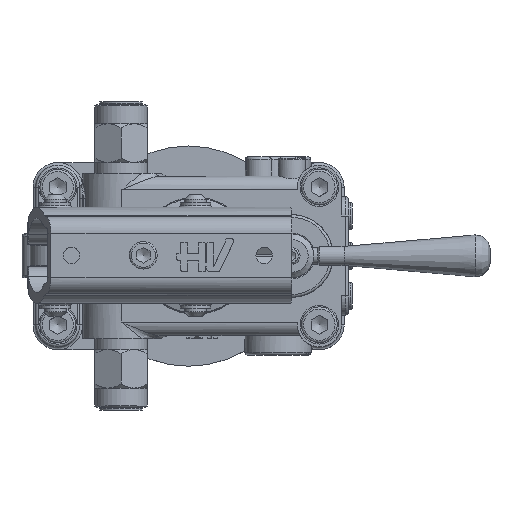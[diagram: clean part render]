
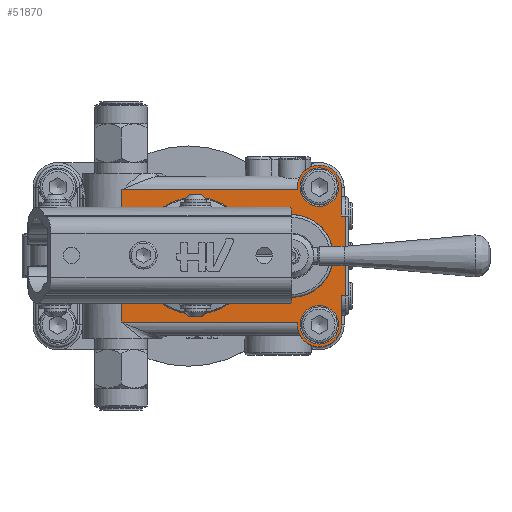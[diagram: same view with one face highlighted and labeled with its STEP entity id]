
A CAD part, top view. The second image highlights one B-rep face of the part: STEP entity #51870.
In plain terms, the highlighted planar face has unit normal (0, 0, 1).
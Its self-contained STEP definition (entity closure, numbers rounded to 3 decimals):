
#22228=CARTESIAN_POINT('',(57.255,52.922,43.));
#22229=VERTEX_POINT('',#22228);
#22230=CARTESIAN_POINT('',(59.,34.,43.));
#22231=DIRECTION('',(0.,0.,1.0));
#22232=DIRECTION('',(0.092,-0.996,0.));
#22233=AXIS2_PLACEMENT_3D('',#22230,#22231,#22232);
#22234=CIRCLE('',#22233,19.002);
#22235=EDGE_CURVE('',#22229,#22229,#22234,.T.);
#43499=CARTESIAN_POINT('',(96.,58.,43.));
#43500=VERTEX_POINT('',#43499);
#43508=CARTESIAN_POINT('',(96.,59.,43.));
#43509=VERTEX_POINT('',#43508);
#43510=CARTESIAN_POINT('',(96.,58.,43.));
#43511=DIRECTION('',(0.0,1.0,0.0));
#43512=VECTOR('',#43511,1.);
#43513=LINE('',#43510,#43512);
#43514=EDGE_CURVE('',#43500,#43509,#43513,.T.);
#43530=CARTESIAN_POINT('',(96.0,10.0,43.));
#43531=VERTEX_POINT('',#43530);
#43541=CARTESIAN_POINT('',(96.0,9.,43.));
#43542=VERTEX_POINT('',#43541);
#43549=CARTESIAN_POINT('',(96.,9.,43.));
#43550=DIRECTION('',(0.0,1.0,0.0));
#43551=VECTOR('',#43550,1.);
#43552=LINE('',#43549,#43551);
#43553=EDGE_CURVE('',#43542,#43531,#43552,.T.);
#43712=CARTESIAN_POINT('',(32.,44.122,43.));
#43713=VERTEX_POINT('',#43712);
#43762=CARTESIAN_POINT('',(33.732,41.0,43.));
#43763=VERTEX_POINT('',#43762);
#43771=CARTESIAN_POINT('',(33.732,41.0,43.));
#43772=CARTESIAN_POINT('',(33.732,41.528,43.));
#43773=CARTESIAN_POINT('',(33.438,42.767,43.));
#43774=CARTESIAN_POINT('',(32.582,43.719,43.));
#43775=CARTESIAN_POINT('',(32.,44.122,43.));
#43776=B_SPLINE_CURVE_WITH_KNOTS('',3,(#43771,#43772,#43773,#43774,#43775),.UNSPECIFIED.,.F.,.U.,(4,1,4),(2.696,2.855,3.066),.UNSPECIFIED.);
#43777=EDGE_CURVE('',#43763,#43713,#43776,.T.);
#43789=CARTESIAN_POINT('',(33.732,27.,43.));
#43790=VERTEX_POINT('',#43789);
#43798=CARTESIAN_POINT('',(33.732,27.,43.));
#43799=DIRECTION('',(0.0,1.0,0.0));
#43800=VECTOR('',#43799,14.);
#43801=LINE('',#43798,#43800);
#43802=EDGE_CURVE('',#43790,#43763,#43801,.T.);
#43835=CARTESIAN_POINT('',(32.,23.878,43.));
#43836=VERTEX_POINT('',#43835);
#43844=CARTESIAN_POINT('',(32.,23.878,43.));
#43845=CARTESIAN_POINT('',(32.433,24.178,43.));
#43846=CARTESIAN_POINT('',(33.336,25.067,43.));
#43847=CARTESIAN_POINT('',(33.732,26.29,43.0));
#43848=CARTESIAN_POINT('',(33.732,27.,43.));
#43849=B_SPLINE_CURVE_WITH_KNOTS('',3,(#43844,#43845,#43846,#43847,#43848),.UNSPECIFIED.,.F.,.U.,(4,1,4),(2.696,2.854,3.065),.UNSPECIFIED.);
#43850=EDGE_CURVE('',#43836,#43790,#43849,.T.);
#44520=CARTESIAN_POINT('',(112.0,59.,43.));
#44521=VERTEX_POINT('',#44520);
#44528=CARTESIAN_POINT('',(112.,48.5,43.));
#44529=VERTEX_POINT('',#44528);
#44530=CARTESIAN_POINT('',(112.0,59.,43.));
#44531=DIRECTION('',(0.0,-1.0,0.0));
#44532=VECTOR('',#44531,10.5);
#44533=LINE('',#44530,#44532);
#44534=EDGE_CURVE('',#44521,#44529,#44533,.T.);
#44649=CARTESIAN_POINT('',(112.0,19.5,43.));
#44650=VERTEX_POINT('',#44649);
#44658=CARTESIAN_POINT('',(112.,9.,43.));
#44659=VERTEX_POINT('',#44658);
#44660=CARTESIAN_POINT('',(112.,19.5,43.));
#44661=DIRECTION('',(0.0,-1.0,0.0));
#44662=VECTOR('',#44661,10.5);
#44663=LINE('',#44660,#44662);
#44664=EDGE_CURVE('',#44650,#44659,#44663,.T.);
#44996=CARTESIAN_POINT('',(113.5,48.5,43.));
#44997=VERTEX_POINT('',#44996);
#45007=CARTESIAN_POINT('',(112.,48.5,43.));
#45008=DIRECTION('',(1.0,0.0,0.0));
#45009=VECTOR('',#45008,1.5);
#45010=LINE('',#45007,#45009);
#45011=EDGE_CURVE('',#44529,#44997,#45010,.T.);
#45021=CARTESIAN_POINT('',(113.5,19.5,43.));
#45022=VERTEX_POINT('',#45021);
#45032=CARTESIAN_POINT('',(112.0,19.5,43.));
#45033=DIRECTION('',(1.0,0.0,0.0));
#45034=VECTOR('',#45033,1.5);
#45035=LINE('',#45032,#45034);
#45036=EDGE_CURVE('',#44650,#45022,#45035,.T.);
#45316=CARTESIAN_POINT('',(113.5,48.5,43.));
#45317=DIRECTION('',(0.0,-1.0,0.0));
#45318=VECTOR('',#45317,29.);
#45319=LINE('',#45316,#45318);
#45320=EDGE_CURVE('',#44997,#45022,#45319,.T.);
#46764=CARTESIAN_POINT('',(32.,10.0,43.));
#46765=VERTEX_POINT('',#46764);
#46796=CARTESIAN_POINT('',(96.0,10.0,43.));
#46797=DIRECTION('',(-1.0,0.0,0.0));
#46798=VECTOR('',#46797,64.);
#46799=LINE('',#46796,#46798);
#46800=EDGE_CURVE('',#43531,#46765,#46799,.T.);
#47483=CARTESIAN_POINT('',(32.,58.,43.));
#47484=VERTEX_POINT('',#47483);
#48342=CARTESIAN_POINT('',(96.,58.,43.));
#48343=DIRECTION('',(-1.0,0.0,0.0));
#48344=VECTOR('',#48343,64.);
#48345=LINE('',#48342,#48344);
#48346=EDGE_CURVE('',#43500,#47484,#48345,.T.);
#48372=CARTESIAN_POINT('',(104.,59.,43.));
#48373=DIRECTION('',(0.0,0.0,-1.0));
#48374=DIRECTION('',(1.0,0.0,0.0));
#48375=AXIS2_PLACEMENT_3D('',#48372,#48373,#48374);
#48376=CIRCLE('',#48375,8.0);
#48377=EDGE_CURVE('',#43509,#44521,#48376,.T.);
#48761=CARTESIAN_POINT('',(83.0,44.198,43.));
#48762=VERTEX_POINT('',#48761);
#48770=CARTESIAN_POINT('',(83.0,23.802,43.));
#48771=VERTEX_POINT('',#48770);
#48772=CARTESIAN_POINT('',(83.0,23.802,43.));
#48773=DIRECTION('',(0.0,1.0,0.0));
#48774=VECTOR('',#48773,20.396);
#48775=LINE('',#48772,#48774);
#48776=EDGE_CURVE('',#48771,#48762,#48775,.T.);
#48830=CARTESIAN_POINT('',(94.,34.0,43.));
#48831=DIRECTION('',(0.0,0.0,-1.0));
#48832=DIRECTION('',(-1.0,0.0,0.0));
#48833=AXIS2_PLACEMENT_3D('',#48830,#48831,#48832);
#48834=CIRCLE('',#48833,15.0);
#48835=EDGE_CURVE('',#48762,#48771,#48834,.T.);
#48874=CARTESIAN_POINT('',(104.0,9.,43.));
#48875=DIRECTION('',(0.0,0.0,-1.0));
#48876=DIRECTION('',(-1.0,0.0,0.0));
#48877=AXIS2_PLACEMENT_3D('',#48874,#48875,#48876);
#48878=CIRCLE('',#48877,8.0);
#48879=EDGE_CURVE('',#44659,#43542,#48878,.T.);
#49643=CARTESIAN_POINT('',(111.0,9.,43.));
#49644=VERTEX_POINT('',#49643);
#49645=CARTESIAN_POINT('',(104.0,9.,43.));
#49646=DIRECTION('',(0.0,0.0,-1.0));
#49647=DIRECTION('',(1.0,0.0,0.0));
#49648=AXIS2_PLACEMENT_3D('',#49645,#49646,#49647);
#49649=CIRCLE('',#49648,7.);
#49650=EDGE_CURVE('',#49644,#49644,#49649,.T.);
#49671=CARTESIAN_POINT('',(111.,59.,43.));
#49672=VERTEX_POINT('',#49671);
#49673=CARTESIAN_POINT('',(104.,59.,43.));
#49674=DIRECTION('',(0.0,0.0,-1.0));
#49675=DIRECTION('',(1.0,0.0,0.0));
#49676=AXIS2_PLACEMENT_3D('',#49673,#49674,#49675);
#49677=CIRCLE('',#49676,7.);
#49678=EDGE_CURVE('',#49672,#49672,#49677,.T.);
#50495=CARTESIAN_POINT('',(32.0,44.122,43.0));
#50496=DIRECTION('',(0.0,1.0,0.0));
#50497=VECTOR('',#50496,13.878);
#50498=LINE('',#50495,#50497);
#50499=EDGE_CURVE('',#43713,#47484,#50498,.T.);
#50688=CARTESIAN_POINT('',(32.0,10.,43.0));
#50689=DIRECTION('',(0.0,1.0,0.0));
#50690=VECTOR('',#50689,13.878);
#50691=LINE('',#50688,#50690);
#50692=EDGE_CURVE('',#46765,#43836,#50691,.T.);
#51834=CARTESIAN_POINT('',(104.,34.,43.));
#51835=DIRECTION('',(0.0,0.0,1.0));
#51836=DIRECTION('',(1.0,0.0,0.0));
#51837=AXIS2_PLACEMENT_3D('',#51834,#51835,#51836);
#51838=PLANE('',#51837);
#51839=ORIENTED_EDGE('',*,*,#45320,.F.);
#51840=ORIENTED_EDGE('',*,*,#45011,.F.);
#51841=ORIENTED_EDGE('',*,*,#44534,.F.);
#51842=ORIENTED_EDGE('',*,*,#48377,.F.);
#51843=ORIENTED_EDGE('',*,*,#43514,.F.);
#51844=ORIENTED_EDGE('',*,*,#48346,.T.);
#51845=ORIENTED_EDGE('',*,*,#50499,.F.);
#51846=ORIENTED_EDGE('',*,*,#43777,.F.);
#51847=ORIENTED_EDGE('',*,*,#43802,.F.);
#51848=ORIENTED_EDGE('',*,*,#43850,.F.);
#51849=ORIENTED_EDGE('',*,*,#50692,.F.);
#51850=ORIENTED_EDGE('',*,*,#46800,.F.);
#51851=ORIENTED_EDGE('',*,*,#43553,.F.);
#51852=ORIENTED_EDGE('',*,*,#48879,.F.);
#51853=ORIENTED_EDGE('',*,*,#44664,.F.);
#51854=ORIENTED_EDGE('',*,*,#45036,.T.);
#51855=EDGE_LOOP('',(#51839,#51840,#51841,#51842,#51843,#51844,#51845,#51846,#51847,#51848,#51849,#51850,#51851,#51852,#51853,#51854));
#51856=FACE_OUTER_BOUND('',#51855,.T.);
#51857=ORIENTED_EDGE('',*,*,#48835,.T.);
#51858=ORIENTED_EDGE('',*,*,#48776,.T.);
#51859=EDGE_LOOP('',(#51857,#51858));
#51860=FACE_BOUND('',#51859,.T.);
#51861=ORIENTED_EDGE('',*,*,#49650,.T.);
#51862=EDGE_LOOP('',(#51861));
#51863=FACE_BOUND('',#51862,.T.);
#51864=ORIENTED_EDGE('',*,*,#49678,.T.);
#51865=EDGE_LOOP('',(#51864));
#51866=FACE_BOUND('',#51865,.T.);
#51867=ORIENTED_EDGE('',*,*,#22235,.F.);
#51868=EDGE_LOOP('',(#51867));
#51869=FACE_BOUND('',#51868,.T.);
#51870=ADVANCED_FACE('',(#51856,#51860,#51863,#51866,#51869),#51838,.T.);
